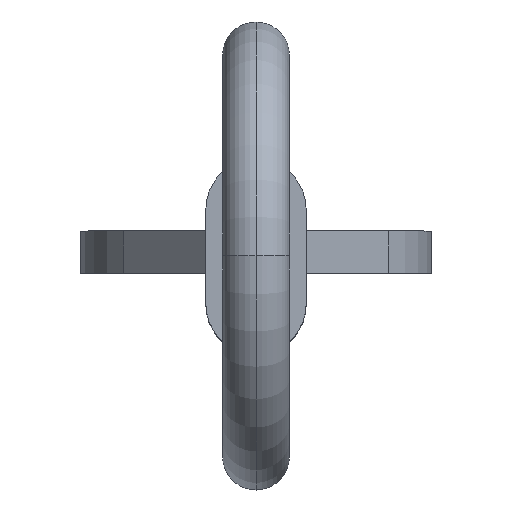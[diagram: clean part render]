
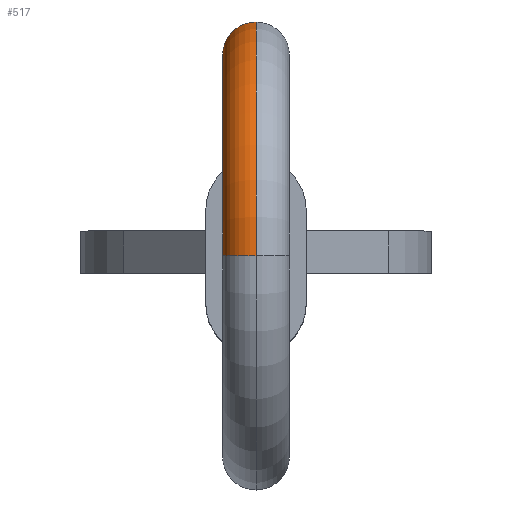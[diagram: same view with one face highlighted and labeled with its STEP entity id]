
A CAD part, top view. The second image highlights one B-rep face of the part: STEP entity #517.
In plain terms, the highlighted toroidal (fillet/blend) face has major radius 4.8 mm and minor radius 0.795 mm.
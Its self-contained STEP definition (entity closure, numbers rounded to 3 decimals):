
#42 = ORIENTED_EDGE ( 'NONE', *, *, #594, .F. ) ;
#87 = DIRECTION ( 'NONE',  ( -1., 0., 0. ) ) ;
#94 = EDGE_CURVE ( 'NONE', #484, #682, #415, .T. ) ;
#133 = VERTEX_POINT ( 'NONE', #685 ) ;
#150 = DIRECTION ( 'NONE',  ( -1., 0., 0. ) ) ;
#179 = DIRECTION ( 'NONE',  ( -1., 0., 0. ) ) ;
#186 = AXIS2_PLACEMENT_3D ( 'NONE', #499, #253, #488 ) ;
#197 = AXIS2_PLACEMENT_3D ( 'NONE', #373, #179, #586 ) ;
#228 = CIRCLE ( 'NONE', #784, 0.795 ) ;
#253 = DIRECTION ( 'NONE',  ( 0., -1., 0. ) ) ;
#263 = AXIS2_PLACEMENT_3D ( 'NONE', #316, #87, #608 ) ;
#284 = EDGE_CURVE ( 'NONE', #484, #305, #726, .T. ) ;
#292 = TOROIDAL_SURFACE ( 'NONE', #197, 4.8, 0.795 ) ;
#305 = VERTEX_POINT ( 'NONE', #506 ) ;
#316 = CARTESIAN_POINT ( 'NONE',  ( 0., -1.133, 188.2 ) ) ;
#368 = FACE_OUTER_BOUND ( 'NONE', #862, .T. ) ;
#373 = CARTESIAN_POINT ( 'NONE',  ( 0., -1.133, 188.2 ) ) ;
#375 = ORIENTED_EDGE ( 'NONE', *, *, #935, .T. ) ;
#378 = CARTESIAN_POINT ( 'NONE',  ( 0., -1.133, 188.2 ) ) ;
#385 = CIRCLE ( 'NONE', #691, 4.005 ) ;
#415 = CIRCLE ( 'NONE', #263, 5.595 ) ;
#484 = VERTEX_POINT ( 'NONE', #606 ) ;
#488 = DIRECTION ( 'NONE',  ( 0., 0., -1. ) ) ;
#490 = DIRECTION ( 'NONE',  ( 1., 0., 0. ) ) ;
#499 = CARTESIAN_POINT ( 'NONE',  ( 0., -1.133, 193. ) ) ;
#506 = CARTESIAN_POINT ( 'NONE',  ( 0., -1.133, 192.205 ) ) ;
#517 = ADVANCED_FACE ( 'NONE', ( #368 ), #292, .T. ) ;
#586 = DIRECTION ( 'NONE',  ( 0., 0., 1. ) ) ;
#594 = EDGE_CURVE ( 'NONE', #305, #133, #385, .T. ) ;
#598 = ORIENTED_EDGE ( 'NONE', *, *, #284, .F. ) ;
#606 = CARTESIAN_POINT ( 'NONE',  ( 0., -1.133, 193.795 ) ) ;
#608 = DIRECTION ( 'NONE',  ( 0., 0., 1. ) ) ;
#656 = CARTESIAN_POINT ( 'NONE',  ( 0., 2.445, 185. ) ) ;
#682 = VERTEX_POINT ( 'NONE', #729 ) ;
#685 = CARTESIAN_POINT ( 'NONE',  ( 0., 1.852, 185.53 ) ) ;
#691 = AXIS2_PLACEMENT_3D ( 'NONE', #378, #150, #811 ) ;
#726 = CIRCLE ( 'NONE', #186, 0.795 ) ;
#729 = CARTESIAN_POINT ( 'NONE',  ( 0., 3.037, 184.47 ) ) ;
#764 = ORIENTED_EDGE ( 'NONE', *, *, #94, .T. ) ;
#784 = AXIS2_PLACEMENT_3D ( 'NONE', #656, #858, #490 ) ;
#811 = DIRECTION ( 'NONE',  ( 0., 0., 1. ) ) ;
#858 = DIRECTION ( 'NONE',  ( 0., 0.667, 0.745 ) ) ;
#862 = EDGE_LOOP ( 'NONE', ( #598, #764, #375, #42 ) ) ;
#935 = EDGE_CURVE ( 'NONE', #682, #133, #228, .T. ) ;
